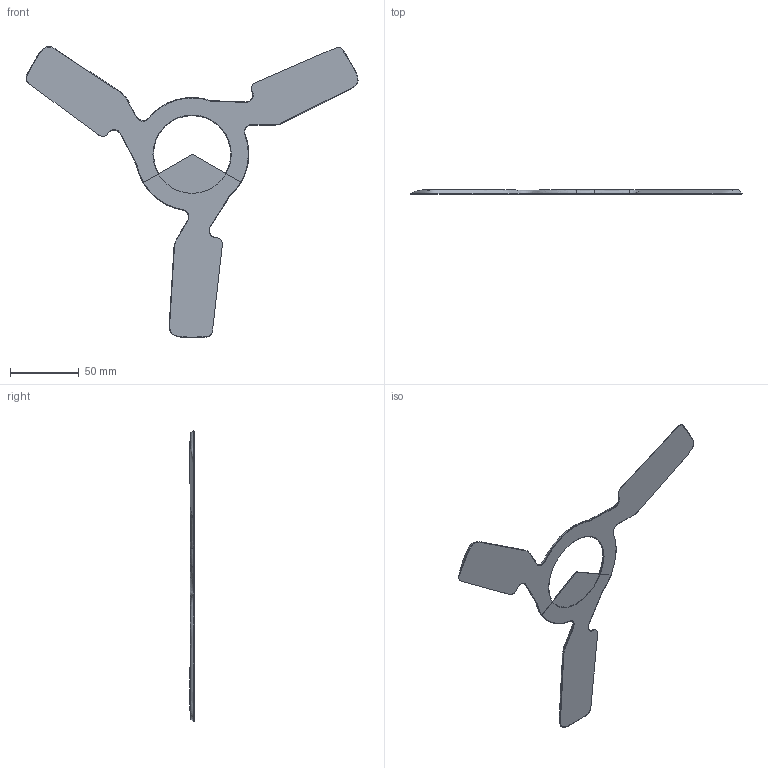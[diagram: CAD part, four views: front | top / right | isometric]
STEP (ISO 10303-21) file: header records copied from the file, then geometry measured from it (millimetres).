
FILE_DESCRIPTION (( 'STEP AP203' ), '1' );
FILE_NAME ('trivenger.STEP', '2021-07-03T09:00:10', ( '' ), ( '' ), 'SwSTEP 2.0', 'SolidWorks 2019', '' );
FILE_SCHEMA (( 'CONFIG_CONTROL_DESIGN' ));
Length unit declared in the file: millimetre
Products named in the file (1): trivenger
Bounding box: 241.02 x 3.3 x 211.13 mm (x, y, z)
Volume: 30078.2 mm3; surface area: 33524.6 mm2
Topology: 2 solids, 2 shells, 141 faces, 400 edges, 266 vertices
Faces by surface type: plane 80, cylinder 25, cone 18, bspline 16, torus 2
Entity records: 7930 total; most frequent: CARTESIAN_POINT 4386, ORIENTED_EDGE 800, DIRECTION 603, EDGE_CURVE 400, VERTEX_POINT 266, LINE 233, VECTOR 233, AXIS2_PLACEMENT_3D 185
